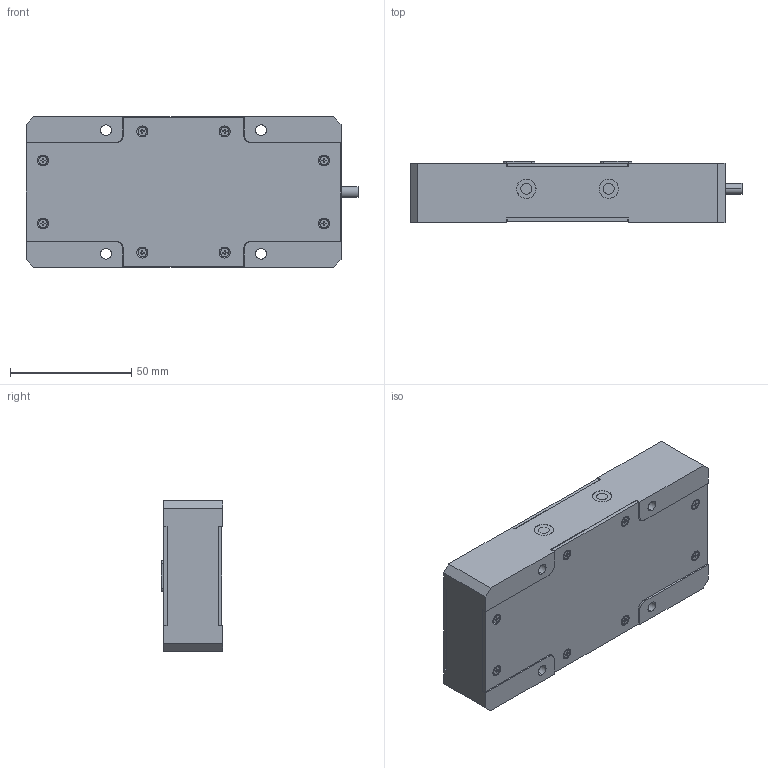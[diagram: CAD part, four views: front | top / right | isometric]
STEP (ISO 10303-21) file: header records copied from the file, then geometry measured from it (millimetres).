
FILE_DESCRIPTION (( 'STEP AP214' ), '1' );
FILE_NAME ('S20A.R1S-C³ß´çÍ¼-25.05.26.STEP', '2025-05-27T01:07:54', ( '' ), ( '' ), 'SwSTEP 2.0', 'SolidWorks 2016', '' );
FILE_SCHEMA (( 'AUTOMOTIVE_DESIGN' ));
Length unit declared in the file: millimetre
Products named in the file (1): S20A.R1S-C喜渡芞-25.05.26
Bounding box: 137 x 25.5 x 62 mm (x, y, z)
Volume: 190074 mm3; surface area: 42316.7 mm2
Topology: 4 solids, 12 shells, 666 faces, 1693 edges, 1090 vertices
Faces by surface type: plane 353, cylinder 233, cone 72, bspline 8
Entity records: 27838 total; most frequent: CARTESIAN_POINT 4026, DIRECTION 3485, ORIENTED_EDGE 3370, EDGE_CURVE 1685, VECTOR 1171, LINE 1171, AXIS2_PLACEMENT_3D 1157, VERTEX_POINT 1090
